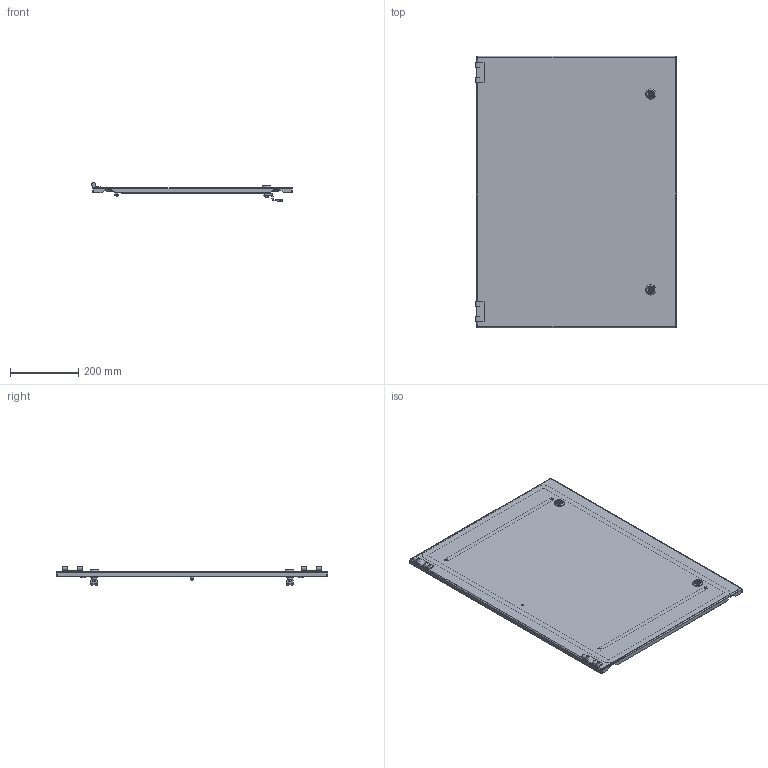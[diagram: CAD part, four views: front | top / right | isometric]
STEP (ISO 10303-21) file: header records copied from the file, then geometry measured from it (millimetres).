
FILE_DESCRIPTION (( 'STEP AP214' ), '1' );
FILE_NAME ('D 80.60 M Äâåðü ñåêöèîííàÿ ãëóõàÿ.STEP', '2016-10-10T07:05:02', ( '' ), ( '' ), 'SwSTEP 2.0', 'SolidWorks 2012', '' );
FILE_SCHEMA (( 'AUTOMOTIVE_DESIGN' ));
Length unit declared in the file: millimetre
Products named in the file (1): D 80.60 M Äâåðü ñåêöèîííàÿ ãëóõàÿ
Bounding box: 588.2 x 794 x 56.33 mm (x, y, z)
Volume: 1332774.5 mm3; surface area: 1198469.3 mm2
Topology: 12 solids, 12 shells, 685 faces, 1774 edges, 1130 vertices
Faces by surface type: plane 299, cylinder 274, cone 64, bspline 22, torus 18, sphere 8
Entity records: 22427 total; most frequent: CARTESIAN_POINT 5116, DIRECTION 3584, ORIENTED_EDGE 3532, EDGE_CURVE 1766, AXIS2_PLACEMENT_3D 1316, VERTEX_POINT 1130, LINE 952, VECTOR 952
